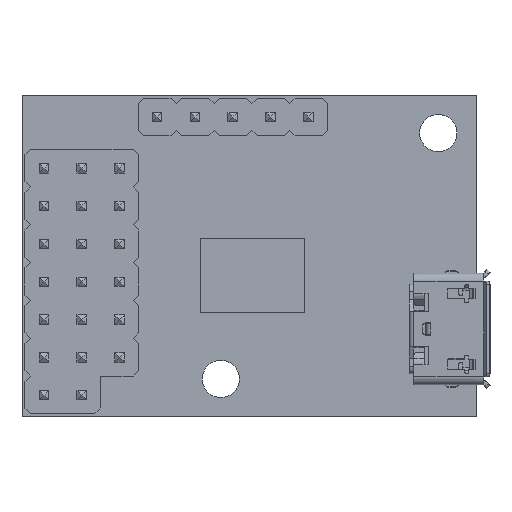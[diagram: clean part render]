
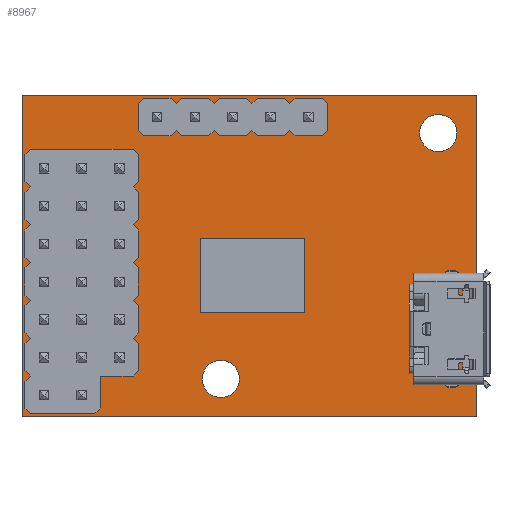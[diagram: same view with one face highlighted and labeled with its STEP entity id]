
A CAD part, front view. The second image highlights one B-rep face of the part: STEP entity #8967.
In plain terms, the highlighted planar face has unit normal (0, -1, 0).
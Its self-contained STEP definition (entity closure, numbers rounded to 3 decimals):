
#8880 = VERTEX_POINT ( 'NONE', #26757 ) ;
#8931 = VERTEX_POINT ( 'NONE', #26947 ) ;
#8957 = VERTEX_POINT ( 'NONE', #27017 ) ;
#8959 = EDGE_CURVE ( 'NONE', #8960, #8931, #27002, .T. ) ;
#8960 = VERTEX_POINT ( 'NONE', #26993 ) ;
#8967 = ADVANCED_FACE ( 'NONE', ( #27101, #27099, #27098, #27096 ), #27091, .F. ) ;
#8968 = EDGE_LOOP ( 'NONE', ( #8970, #8972 ) ) ;
#8970 = ORIENTED_EDGE ( 'NONE', *, *, #8990, .T. ) ;
#8972 = ORIENTED_EDGE ( 'NONE', *, *, #8974, .T. ) ;
#8974 = EDGE_CURVE ( 'NONE', #8957, #8880, #27068, .T. ) ;
#8975 = EDGE_LOOP ( 'NONE', ( #8977, #9011, #9016, #9020 ) ) ;
#8977 = ORIENTED_EDGE ( 'NONE', *, *, #8979, .F. ) ;
#8979 = EDGE_CURVE ( 'NONE', #9007, #9008, #27047, .T. ) ;
#8990 = EDGE_CURVE ( 'NONE', #8880, #8957, #27206, .T. ) ;
#8996 = VERTEX_POINT ( 'NONE', #27181 ) ;
#8999 = ORIENTED_EDGE ( 'NONE', *, *, #9000, .F. ) ;
#9000 = EDGE_CURVE ( 'NONE', #9072, #8996, #27277, .T. ) ;
#9007 = VERTEX_POINT ( 'NONE', #27249 ) ;
#9008 = VERTEX_POINT ( 'NONE', #27248 ) ;
#9011 = ORIENTED_EDGE ( 'NONE', *, *, #9012, .F. ) ;
#9012 = EDGE_CURVE ( 'NONE', #9014, #9007, #27243, .T. ) ;
#9014 = VERTEX_POINT ( 'NONE', #27237 ) ;
#9016 = ORIENTED_EDGE ( 'NONE', *, *, #9017, .F. ) ;
#9017 = EDGE_CURVE ( 'NONE', #9019, #9014, #27234, .T. ) ;
#9019 = VERTEX_POINT ( 'NONE', #27334 ) ;
#9020 = ORIENTED_EDGE ( 'NONE', *, *, #9022, .F. ) ;
#9022 = EDGE_CURVE ( 'NONE', #9008, #9019, #27331, .T. ) ;
#9023 = EDGE_LOOP ( 'NONE', ( #9025, #9028 ) ) ;
#9025 = ORIENTED_EDGE ( 'NONE', *, *, #8959, .T. ) ;
#9028 = ORIENTED_EDGE ( 'NONE', *, *, #9030, .T. ) ;
#9030 = EDGE_CURVE ( 'NONE', #8931, #8960, #27321, .T. ) ;
#9031 = EDGE_LOOP ( 'NONE', ( #9068, #9074, #9080, #8999 ) ) ;
#9068 = ORIENTED_EDGE ( 'NONE', *, *, #9070, .F. ) ;
#9070 = EDGE_CURVE ( 'NONE', #9071, #9072, #27432, .T. ) ;
#9071 = VERTEX_POINT ( 'NONE', #27431 ) ;
#9072 = VERTEX_POINT ( 'NONE', #27471 ) ;
#9074 = ORIENTED_EDGE ( 'NONE', *, *, #9076, .F. ) ;
#9076 = EDGE_CURVE ( 'NONE', #9078, #9071, #27469, .T. ) ;
#9078 = VERTEX_POINT ( 'NONE', #27460 ) ;
#9080 = ORIENTED_EDGE ( 'NONE', *, *, #9082, .F. ) ;
#9082 = EDGE_CURVE ( 'NONE', #8996, #9078, #27453, .T. ) ;
#26757 = CARTESIAN_POINT ( 'NONE',  ( -1.9, 0., -9.505 ) ) ;
#26947 = CARTESIAN_POINT ( 'NONE',  ( 12.7, 0., 9.505 ) ) ;
#26993 = CARTESIAN_POINT ( 'NONE',  ( 12.7, 0., 7.005 ) ) ;
#26994 = DIRECTION ( 'NONE',  ( 0., 0., 1. ) ) ;
#26996 = DIRECTION ( 'NONE',  ( 0., 1., 0. ) ) ;
#26998 = CARTESIAN_POINT ( 'NONE',  ( 12.7, 0., 8.255 ) ) ;
#27000 = AXIS2_PLACEMENT_3D ( 'NONE', #26998, #26996, #26994 ) ;
#27002 = CIRCLE ( 'NONE', #27000, 1.25 ) ;
#27017 = CARTESIAN_POINT ( 'NONE',  ( -1.9, 0., -7.005 ) ) ;
#27041 = DIRECTION ( 'NONE',  ( 0., 0., 1. ) ) ;
#27043 = VECTOR ( 'NONE', #27041, 1000. ) ;
#27045 = CARTESIAN_POINT ( 'NONE',  ( -15.25, 0., -10.8 ) ) ;
#27047 = LINE ( 'NONE', #27045, #27043 ) ;
#27061 = DIRECTION ( 'NONE',  ( 0., 0., 1. ) ) ;
#27063 = DIRECTION ( 'NONE',  ( 0., 1., 0. ) ) ;
#27065 = CARTESIAN_POINT ( 'NONE',  ( -1.9, 0., -8.255 ) ) ;
#27066 = AXIS2_PLACEMENT_3D ( 'NONE', #27065, #27063, #27061 ) ;
#27068 = CIRCLE ( 'NONE', #27066, 1.25 ) ;
#27083 = DIRECTION ( 'NONE',  ( 0., 0., 1. ) ) ;
#27085 = DIRECTION ( 'NONE',  ( 0., 1., 0. ) ) ;
#27087 = CARTESIAN_POINT ( 'NONE',  ( -15.25, 0., 10.8 ) ) ;
#27089 = AXIS2_PLACEMENT_3D ( 'NONE', #27087, #27085, #27083 ) ;
#27091 = PLANE ( 'NONE',  #27089 ) ;
#27096 = FACE_BOUND ( 'NONE', #9031, .T. ) ;
#27098 = FACE_BOUND ( 'NONE', #9023, .T. ) ;
#27099 = FACE_OUTER_BOUND ( 'NONE', #8975, .T. ) ;
#27101 = FACE_BOUND ( 'NONE', #8968, .T. ) ;
#27181 = CARTESIAN_POINT ( 'NONE',  ( -3.25, 0., 1.2 ) ) ;
#27200 = DIRECTION ( 'NONE',  ( 0., 0., 1. ) ) ;
#27202 = DIRECTION ( 'NONE',  ( 0., 1., 0. ) ) ;
#27204 = CARTESIAN_POINT ( 'NONE',  ( -1.9, 0., -8.255 ) ) ;
#27205 = AXIS2_PLACEMENT_3D ( 'NONE', #27204, #27202, #27200 ) ;
#27206 = CIRCLE ( 'NONE', #27205, 1.25 ) ;
#27230 = DIRECTION ( 'NONE',  ( 0., 0., -1. ) ) ;
#27232 = VECTOR ( 'NONE', #27230, 1000. ) ;
#27233 = CARTESIAN_POINT ( 'NONE',  ( 15.25, 0., -10.8 ) ) ;
#27234 = LINE ( 'NONE', #27233, #27232 ) ;
#27237 = CARTESIAN_POINT ( 'NONE',  ( 15.25, 0., -10.8 ) ) ;
#27238 = DIRECTION ( 'NONE',  ( -1., 0., 0. ) ) ;
#27239 = VECTOR ( 'NONE', #27238, 1000. ) ;
#27241 = CARTESIAN_POINT ( 'NONE',  ( -15.25, 0., -10.8 ) ) ;
#27243 = LINE ( 'NONE', #27241, #27239 ) ;
#27248 = CARTESIAN_POINT ( 'NONE',  ( -15.25, 0., 10.8 ) ) ;
#27249 = CARTESIAN_POINT ( 'NONE',  ( -15.25, 0., -10.8 ) ) ;
#27274 = DIRECTION ( 'NONE',  ( -1., 0., 0. ) ) ;
#27275 = VECTOR ( 'NONE', #27274, 1000. ) ;
#27276 = CARTESIAN_POINT ( 'NONE',  ( 3.75, 0., 1.2 ) ) ;
#27277 = LINE ( 'NONE', #27276, #27275 ) ;
#27316 = DIRECTION ( 'NONE',  ( 0., 0., 1. ) ) ;
#27317 = DIRECTION ( 'NONE',  ( 0., 1., 0. ) ) ;
#27318 = CARTESIAN_POINT ( 'NONE',  ( 12.7, 0., 8.255 ) ) ;
#27319 = AXIS2_PLACEMENT_3D ( 'NONE', #27318, #27317, #27316 ) ;
#27321 = CIRCLE ( 'NONE', #27319, 1.25 ) ;
#27326 = DIRECTION ( 'NONE',  ( 1., 0., 0. ) ) ;
#27328 = VECTOR ( 'NONE', #27326, 1000. ) ;
#27329 = CARTESIAN_POINT ( 'NONE',  ( -15.25, 0., 10.8 ) ) ;
#27331 = LINE ( 'NONE', #27329, #27328 ) ;
#27334 = CARTESIAN_POINT ( 'NONE',  ( 15.25, 0., 10.8 ) ) ;
#27420 = CARTESIAN_POINT ( 'NONE',  ( 3.75, 0., -3.8 ) ) ;
#27427 = DIRECTION ( 'NONE',  ( 0., 0., 1. ) ) ;
#27429 = VECTOR ( 'NONE', #27427, 1000. ) ;
#27431 = CARTESIAN_POINT ( 'NONE',  ( 3.75, 0., -3.8 ) ) ;
#27432 = LINE ( 'NONE', #27420, #27429 ) ;
#27449 = DIRECTION ( 'NONE',  ( 0., 0., -1. ) ) ;
#27450 = VECTOR ( 'NONE', #27449, 1000. ) ;
#27452 = CARTESIAN_POINT ( 'NONE',  ( -3.25, 0., -3.8 ) ) ;
#27453 = LINE ( 'NONE', #27452, #27450 ) ;
#27460 = CARTESIAN_POINT ( 'NONE',  ( -3.25, 0., -3.8 ) ) ;
#27466 = DIRECTION ( 'NONE',  ( 1., 0., 0. ) ) ;
#27467 = VECTOR ( 'NONE', #27466, 1000. ) ;
#27468 = CARTESIAN_POINT ( 'NONE',  ( 3.75, 0., -3.8 ) ) ;
#27469 = LINE ( 'NONE', #27468, #27467 ) ;
#27471 = CARTESIAN_POINT ( 'NONE',  ( 3.75, 0., 1.2 ) ) ;
